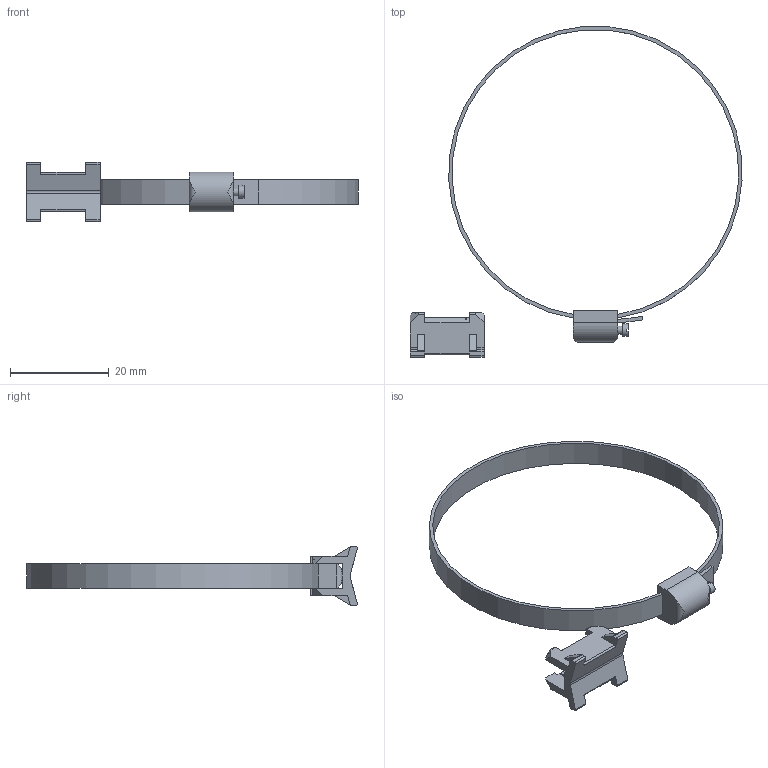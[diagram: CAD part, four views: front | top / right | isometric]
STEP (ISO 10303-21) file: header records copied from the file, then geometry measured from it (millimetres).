
FILE_DESCRIPTION( ( 'STEP AP203' ), '1' );
FILE_NAME( 'p:/temp/worker_43/temp/exporttempdir_3820_493_d8WHK/format_1/E11821.stp', '2022-03-15T11:11:27', ( 'License CC BY-ND 4.0' ), ( 'CADENAS' ), ' ', 'PARTsolutions', ' ' );
FILE_SCHEMA( ( 'CONFIG_CONTROL_DESIGN' ) );
Length unit declared in the file: millimetre
Products named in the file (3): E11821; _E11816_part1; _E11821_part2
Assembly tree (2 placements, depth 2):
  E11821
    _E11816_part1
    _E11821_part2
Bounding box: 67.16 x 66.91 x 12 mm (x, y, z)
Volume: 1564.1 mm3; surface area: 3207.9 mm2
Topology: 2 solids, 2 shells, 105 faces, 300 edges, 202 vertices
Faces by surface type: plane 81, cylinder 24
Full cylindrical faces by diameter (mm): 1.6 x1, 2.5 x1
Entity records: 3528 total; most frequent: CARTESIAN_POINT 655, ORIENTED_EDGE 592, DIRECTION 554, EDGE_CURVE 296, LINE 232, VECTOR 232, VERTEX_POINT 200, AXIS2_PLACEMENT_3D 161
